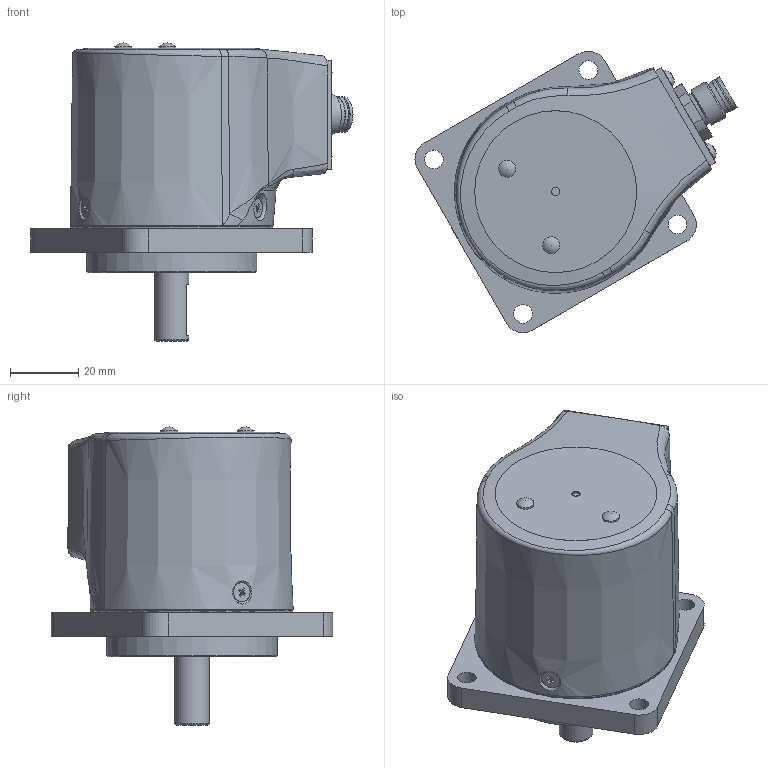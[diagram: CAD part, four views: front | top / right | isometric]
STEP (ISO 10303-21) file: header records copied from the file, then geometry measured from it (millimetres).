
FILE_DESCRIPTION(/* description */ ('Unknown'),/* implementation_level */ '2;1');
FILE_NAME(/* name */ 'EAL_EAML_63_E_M12R',/* time_stamp */ '2018-04-20T11:59:37+02:00',/* author */ ('Unknown'),/* organization */ ('Unknown'),/* preprocessor_version */ 'ST-DEVELOPER v16.7',/* originating_system */ 'DEX',/* authorisation */ $);
FILE_SCHEMA (('AUTOMOTIVE_DESIGN {1 0 10303 214 3 1 1}'));
Length unit declared in the file: millimetre
Products named in the file (1): EAL_EAML_63_E_M12R
Bounding box: 94.6 x 82.68 x 87.54 mm (x, y, z)
Volume: 101104.4 mm3; surface area: 49965.7 mm2
Topology: 2 solids, 21 shells, 513 faces, 1220 edges, 807 vertices
Faces by surface type: plane 255, cylinder 137, cone 71, torus 33, bspline 17
Full cylindrical faces by diameter (mm): 0.9 x16, 1.5 x8, 2.013 x7, 2.459 x10, 2.5 x1, 3 x6, 3.4 x3, 4.98 x1, 5 x3, 5.5 x4, 5.6 x3, 6 x5, 7.98 x1, 8 x7, 8.25 x1, 8.772 x1, 10 x5, 10.4 x4, 12 x1, 12.4 x1, 13 x1, 14.53 x1, 15.2 x1, 22 x3, 22.1 x2, 22.5 x1, 27 x1, 29 x2, 50 x1, 51.2 x1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
Entity records: 14424 total; most frequent: CARTESIAN_POINT 4122, DIRECTION 2096, ORIENTED_EDGE 1772, AXIS2_PLACEMENT_3D 889, EDGE_CURVE 886, FACE_BOUND 826, EDGE_LOOP 806, VERTEX_POINT 698
